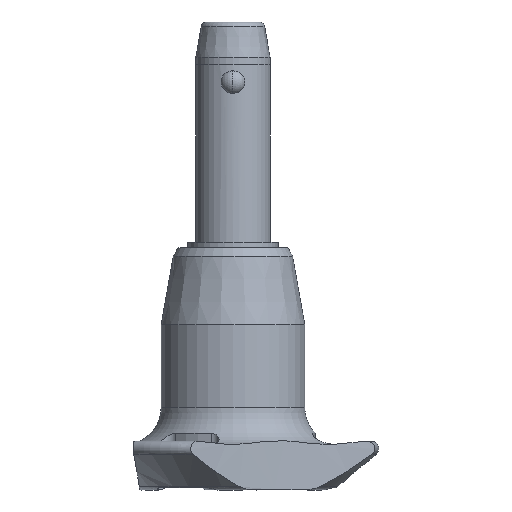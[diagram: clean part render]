
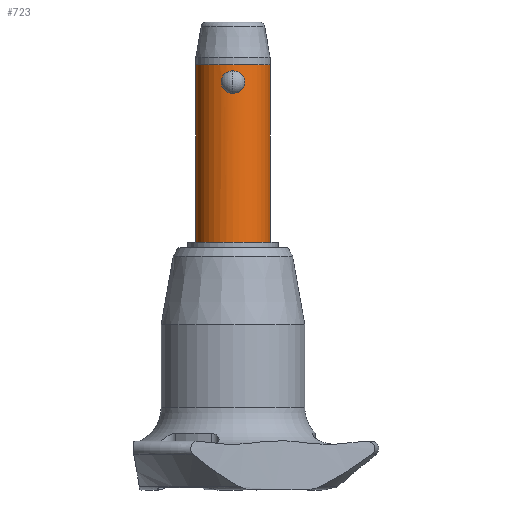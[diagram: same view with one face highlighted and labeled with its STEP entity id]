
A CAD part, front view. The second image highlights one B-rep face of the part: STEP entity #723.
In plain terms, the highlighted cylindrical face has radius 5 mm (diameter 10 mm), a partial arc.
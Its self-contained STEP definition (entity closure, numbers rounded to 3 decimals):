
#77 = CARTESIAN_POINT ( 'NONE',  ( 1.047, -4.89, 0.356 ) ) ;
#152 = EDGE_CURVE ( 'NONE', #2170, #560, #2122, .T. ) ;
#164 = DIRECTION ( 'NONE',  ( 0., 0., 1. ) ) ;
#233 = CARTESIAN_POINT ( 'NONE',  ( 0., -5., 0. ) ) ;
#261 = CARTESIAN_POINT ( 'NONE',  ( -0.412, -4.987, 0.037 ) ) ;
#293 = CARTESIAN_POINT ( 'NONE',  ( 0.792, -4.938, 0.19 ) ) ;
#351 = CARTESIAN_POINT ( 'NONE',  ( 0.699, -4.952, 0.144 ) ) ;
#360 = FACE_OUTER_BOUND ( 'NONE', #697, .T. ) ;
#369 = CARTESIAN_POINT ( 'NONE',  ( 0., 0., -20. ) ) ;
#375 = AXIS2_PLACEMENT_3D ( 'NONE', #2324, #1266, #2552 ) ;
#380 = VECTOR ( 'NONE', #1701, 1000. ) ;
#393 = CARTESIAN_POINT ( 'NONE',  ( -1.264, -4.838, 2.464 ) ) ;
#402 = ORIENTED_EDGE ( 'NONE', *, *, #152, .F. ) ;
#420 = AXIS2_PLACEMENT_3D ( 'NONE', #369, #1465, #1685 ) ;
#422 = CARTESIAN_POINT ( 'NONE',  ( 0.966, -4.907, 2.738 ) ) ;
#443 = CARTESIAN_POINT ( 'NONE',  ( -1.519, -4.764, 1.013 ) ) ;
#449 = CARTESIAN_POINT ( 'NONE',  ( -5., 0., -20. ) ) ;
#528 = CARTESIAN_POINT ( 'NONE',  ( 0.205, -5., 0. ) ) ;
#560 = VERTEX_POINT ( 'NONE', #449 ) ;
#610 = LINE ( 'NONE', #1768, #2545 ) ;
#633 = CARTESIAN_POINT ( 'NONE',  ( 1.594, -4.739, 1.721 ) ) ;
#662 = CARTESIAN_POINT ( 'NONE',  ( -0.791, -4.938, 2.844 ) ) ;
#685 = ORIENTED_EDGE ( 'NONE', *, *, #1371, .F. ) ;
#697 = EDGE_LOOP ( 'NONE', ( #2774, #402, #1769, #1837 ) ) ;
#723 = ADVANCED_FACE ( 'NONE', ( #360, #2535 ), #2350, .T. ) ;
#729 = CARTESIAN_POINT ( 'NONE',  ( 5., 0., -20. ) ) ;
#739 = CARTESIAN_POINT ( 'NONE',  ( 1.265, -4.838, 0.57 ) ) ;
#812 = CARTESIAN_POINT ( 'NONE',  ( 1.56, -4.751, 1.103 ) ) ;
#825 = CARTESIAN_POINT ( 'NONE',  ( 0.7, -4.952, 2.888 ) ) ;
#830 = B_SPLINE_CURVE_WITH_KNOTS ( 'NONE', 3,
 ( #942, #528, #2328, #351, #293, #1179, #77, #1405, #739, #2704, #2382, #812, #2792, #1694, #633, #2581, #1251, #2567, #1490, #1681, #422, #2781, #825, #1072, #1019, #2153 ),
 .UNSPECIFIED., .F., .F.,
 ( 4, 2, 2, 2, 2, 2, 2, 2, 2, 2, 2, 2, 4 ),
 ( 0.005, 0.006, 0.006, 0.006, 0.006, 0.007, 0.007, 0.008, 0.008, 0.009, 0.009, 0.009, 0.01 ),
 .UNSPECIFIED. ) ;
#871 = CARTESIAN_POINT ( 'NONE',  ( -1.604, -4.736, 1.724 ) ) ;
#942 = CARTESIAN_POINT ( 'NONE',  ( 0., -5., 0. ) ) ;
#997 = VERTEX_POINT ( 'NONE', #1259 ) ;
#1019 = CARTESIAN_POINT ( 'NONE',  ( 0.208, -5., 3.033 ) ) ;
#1025 = CARTESIAN_POINT ( 'NONE',  ( -5., 0., -20. ) ) ;
#1029 = EDGE_CURVE ( 'NONE', #560, #997, #2776, .T. ) ;
#1044 = CARTESIAN_POINT ( 'NONE',  ( -0.965, -4.907, 2.738 ) ) ;
#1050 = CARTESIAN_POINT ( 'NONE',  ( 0., -5., 0. ) ) ;
#1057 = CARTESIAN_POINT ( 'NONE',  ( -1.435, -4.79, 2.209 ) ) ;
#1072 = CARTESIAN_POINT ( 'NONE',  ( 0.412, -4.987, 2.996 ) ) ;
#1128 = CARTESIAN_POINT ( 'NONE',  ( -0.966, -4.907, 0.296 ) ) ;
#1179 = CARTESIAN_POINT ( 'NONE',  ( 0.966, -4.907, 0.296 ) ) ;
#1234 = CARTESIAN_POINT ( 'NONE',  ( 0., 0., 3.84 ) ) ;
#1251 = CARTESIAN_POINT ( 'NONE',  ( 1.519, -4.764, 2.021 ) ) ;
#1259 = CARTESIAN_POINT ( 'NONE',  ( -5., 0., 3.84 ) ) ;
#1264 = CARTESIAN_POINT ( 'NONE',  ( -0.208, -5., 3.033 ) ) ;
#1266 = DIRECTION ( 'NONE',  ( 0., 0., 1. ) ) ;
#1281 = CARTESIAN_POINT ( 'NONE',  ( -1.383, -4.805, 2.299 ) ) ;
#1294 = EDGE_CURVE ( 'NONE', #997, #2376, #1618, .T. ) ;
#1323 = CARTESIAN_POINT ( 'NONE',  ( -1.594, -4.739, 1.312 ) ) ;
#1362 = EDGE_CURVE ( 'NONE', #2170, #2376, #610, .T. ) ;
#1371 = EDGE_CURVE ( 'NONE', #1857, #2300, #2252, .T. ) ;
#1388 = CARTESIAN_POINT ( 'NONE',  ( -1.394, -4.802, 0.731 ) ) ;
#1405 = CARTESIAN_POINT ( 'NONE',  ( 1.196, -4.855, 0.493 ) ) ;
#1430 = CARTESIAN_POINT ( 'NONE',  ( 0., -5., 3.033 ) ) ;
#1465 = DIRECTION ( 'NONE',  ( 0., 0., -1. ) ) ;
#1485 = CARTESIAN_POINT ( 'NONE',  ( -0.412, -4.987, 2.997 ) ) ;
#1490 = CARTESIAN_POINT ( 'NONE',  ( 1.272, -4.838, 2.47 ) ) ;
#1535 = CARTESIAN_POINT ( 'NONE',  ( -1.604, -4.736, 1.416 ) ) ;
#1572 = CARTESIAN_POINT ( 'NONE',  ( -1.047, -4.89, 0.357 ) ) ;
#1618 = CIRCLE ( 'NONE', #2716, 5. ) ;
#1681 = CARTESIAN_POINT ( 'NONE',  ( 1.048, -4.889, 2.676 ) ) ;
#1685 = DIRECTION ( 'NONE',  ( 1., 0., 0. ) ) ;
#1694 = CARTESIAN_POINT ( 'NONE',  ( 1.604, -4.736, 1.619 ) ) ;
#1701 = DIRECTION ( 'NONE',  ( 0., 0., 1. ) ) ;
#1704 = DIRECTION ( 'NONE',  ( 0., 0., 1. ) ) ;
#1752 = CARTESIAN_POINT ( 'NONE',  ( -1.047, -4.89, 2.676 ) ) ;
#1768 = CARTESIAN_POINT ( 'NONE',  ( 5., 0., -20. ) ) ;
#1769 = ORIENTED_EDGE ( 'NONE', *, *, #1362, .T. ) ;
#1822 = CARTESIAN_POINT ( 'NONE',  ( -0.699, -4.952, 0.145 ) ) ;
#1837 = ORIENTED_EDGE ( 'NONE', *, *, #1294, .F. ) ;
#1857 = VERTEX_POINT ( 'NONE', #1430 ) ;
#1905 = DIRECTION ( 'NONE',  ( 1., 0., 0. ) ) ;
#2122 = CIRCLE ( 'NONE', #420, 5. ) ;
#2134 = CARTESIAN_POINT ( 'NONE',  ( -0.7, -4.952, 2.888 ) ) ;
#2153 = CARTESIAN_POINT ( 'NONE',  ( 0., -5., 3.033 ) ) ;
#2155 = CARTESIAN_POINT ( 'NONE',  ( 5., 0., 3.84 ) ) ;
#2170 = VERTEX_POINT ( 'NONE', #729 ) ;
#2204 = CARTESIAN_POINT ( 'NONE',  ( -0.205, -5., 0. ) ) ;
#2248 = CARTESIAN_POINT ( 'NONE',  ( -0.792, -4.938, 0.19 ) ) ;
#2252 = B_SPLINE_CURVE_WITH_KNOTS ( 'NONE', 3,
 ( #2349, #1264, #1485, #2134, #662, #1044, #1752, #2367, #393, #1281, #1057, #2836, #871, #1535, #1323, #2411, #443, #1388, #2268, #1572, #1128, #2248, #1822, #261, #2204, #233 ),
 .UNSPECIFIED., .F., .F.,
 ( 4, 2, 2, 2, 2, 2, 2, 2, 2, 2, 2, 2, 4 ),
 ( 0., 0.001, 0.001, 0.001, 0.002, 0.002, 0.002, 0.003, 0.003, 0.004, 0.004, 0.004, 0.005 ),
 .UNSPECIFIED. ) ;
#2268 = CARTESIAN_POINT ( 'NONE',  ( -1.272, -4.838, 0.564 ) ) ;
#2300 = VERTEX_POINT ( 'NONE', #1050 ) ;
#2324 = CARTESIAN_POINT ( 'NONE',  ( 0., 0., -20. ) ) ;
#2328 = CARTESIAN_POINT ( 'NONE',  ( 0.412, -4.987, 0.037 ) ) ;
#2334 = ORIENTED_EDGE ( 'NONE', *, *, #2611, .F. ) ;
#2349 = CARTESIAN_POINT ( 'NONE',  ( 0., -5., 3.033 ) ) ;
#2350 = CYLINDRICAL_SURFACE ( 'NONE', #375, 5. ) ;
#2367 = CARTESIAN_POINT ( 'NONE',  ( -1.197, -4.855, 2.539 ) ) ;
#2376 = VERTEX_POINT ( 'NONE', #2155 ) ;
#2382 = CARTESIAN_POINT ( 'NONE',  ( 1.434, -4.79, 0.822 ) ) ;
#2411 = CARTESIAN_POINT ( 'NONE',  ( -1.551, -4.753, 1.11 ) ) ;
#2535 = FACE_BOUND ( 'NONE', #2756, .T. ) ;
#2545 = VECTOR ( 'NONE', #1704, 1000. ) ;
#2552 = DIRECTION ( 'NONE',  ( 1., 0., 0. ) ) ;
#2567 = CARTESIAN_POINT ( 'NONE',  ( 1.395, -4.802, 2.301 ) ) ;
#2581 = CARTESIAN_POINT ( 'NONE',  ( 1.551, -4.753, 1.922 ) ) ;
#2611 = EDGE_CURVE ( 'NONE', #2300, #1857, #830, .T. ) ;
#2704 = CARTESIAN_POINT ( 'NONE',  ( 1.384, -4.805, 0.735 ) ) ;
#2716 = AXIS2_PLACEMENT_3D ( 'NONE', #1234, #164, #1905 ) ;
#2756 = EDGE_LOOP ( 'NONE', ( #685, #2334 ) ) ;
#2774 = ORIENTED_EDGE ( 'NONE', *, *, #1029, .F. ) ;
#2776 = LINE ( 'NONE', #1025, #380 ) ;
#2781 = CARTESIAN_POINT ( 'NONE',  ( 0.792, -4.938, 2.844 ) ) ;
#2792 = CARTESIAN_POINT ( 'NONE',  ( 1.604, -4.736, 1.308 ) ) ;
#2836 = CARTESIAN_POINT ( 'NONE',  ( -1.56, -4.751, 1.931 ) ) ;
